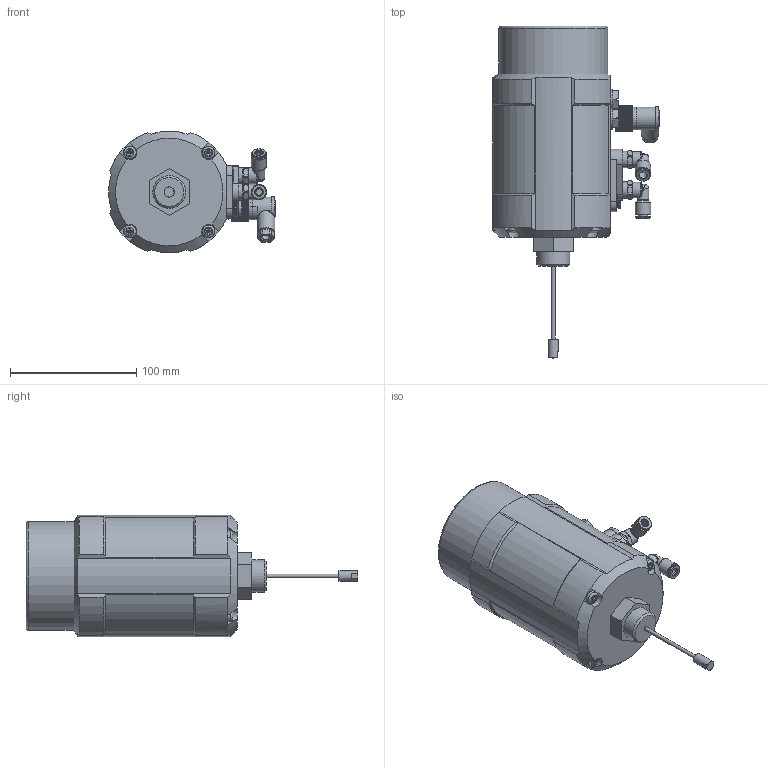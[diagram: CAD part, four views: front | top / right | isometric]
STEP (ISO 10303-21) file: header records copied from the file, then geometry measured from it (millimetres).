
FILE_DESCRIPTION(('STEP AP242'), '1');
FILE_NAME('ÝÈÏ-1600 Ýëåêòðîïíåâìàòè÷åñêèé ïîçèöèîíåð DN.ru', '2026-04-22T18:10:24', ('R2D2'), (''), 'C3D Converter', 'C3D Toolkit', '');
FILE_SCHEMA(('AP242_MANAGED_MODEL_BASED_3D_ENGINEERING_MIM_LF { 1 0 10303 442 1 1 4 }'));
Length unit declared in the file: millimetre
Products named in the file (1): ЭИП-1600
Bounding box: 132 x 262.5 x 96 mm (x, y, z)
Volume: 6445.5 mm3; surface area: 84626.6 mm2
Topology: 7 solids, 144 shells, 3279 faces, 8962 edges, 5828 vertices
Faces by surface type: plane 2115, cone 546, cylinder 535, bspline 58, torus 22, sphere 3
Full cylindrical faces by diameter (mm): 0.8 x1, 1 x4, 3 x1, 5 x2, 6 x5, 6.15 x3, 7 x1, 7.3 x3, 8 x1, 8.3 x2, 9 x2, 9.6 x2, 10 x4, 10.106 x1, 10.6 x1, 10.939 x2, 11.5 x3, 11.81 x2, 12 x7, 12.5 x2, 12.9 x2, 13 x1, 13.939 x1, 14 x1, 15 x1, 16 x3, 18 x2, 26 x1, 86 x1
Entity records: 154130 total; most frequent: CARTESIAN_POINT 50509, ORIENTED_EDGE 17396, DIRECTION 14842, EDGE_CURVE 8706, VERTEX_POINT 5768, LINE 5530, VECTOR 5530, AXIS2_PLACEMENT_3D 4656
